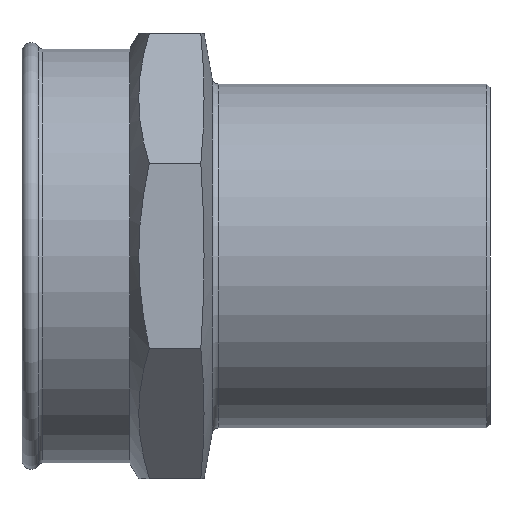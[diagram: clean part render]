
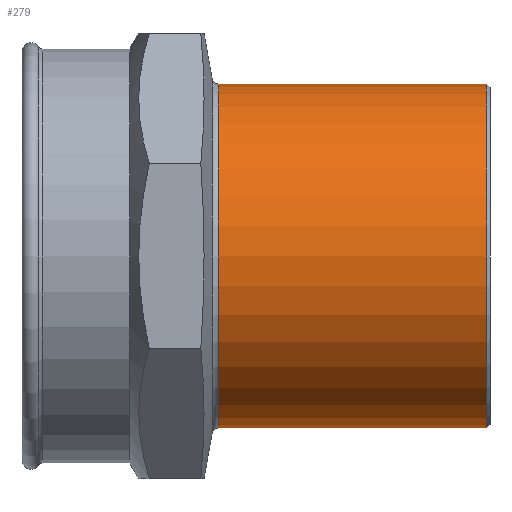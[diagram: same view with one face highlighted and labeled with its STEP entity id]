
A CAD part, left-side view. The second image highlights one B-rep face of the part: STEP entity #279.
In plain terms, the highlighted cylindrical face has radius 27 mm (diameter 54 mm), a partial arc.
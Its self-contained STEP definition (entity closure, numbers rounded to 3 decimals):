
#30 = CIRCLE ( 'NONE', #1045, 27. ) ;
#142 = VERTEX_POINT ( 'NONE', #580 ) ;
#244 = AXIS2_PLACEMENT_3D ( 'NONE', #880, #782, #786 ) ;
#270 = VERTEX_POINT ( 'NONE', #1057 ) ;
#279 = ADVANCED_FACE ( 'NONE', ( #624 ), #1069, .T. ) ;
#280 = EDGE_LOOP ( 'NONE', ( #483, #667, #403, #956 ) ) ;
#403 = ORIENTED_EDGE ( 'NONE', *, *, #968, .T. ) ;
#436 = CARTESIAN_POINT ( 'NONE',  ( 0., -17.811, -27. ) ) ;
#467 = DIRECTION ( 'NONE',  ( 0., -1., 0. ) ) ;
#483 = ORIENTED_EDGE ( 'NONE', *, *, #977, .F. ) ;
#513 = CARTESIAN_POINT ( 'NONE',  ( 0., 42.661, 0. ) ) ;
#524 = DIRECTION ( 'NONE',  ( 0., -1., 0. ) ) ;
#526 = DIRECTION ( 'NONE',  ( 0., -1., 0. ) ) ;
#544 = EDGE_CURVE ( 'NONE', #646, #142, #30, .T. ) ;
#580 = CARTESIAN_POINT ( 'NONE',  ( 0., 0.5, -27. ) ) ;
#593 = AXIS2_PLACEMENT_3D ( 'NONE', #513, #1157, #600 ) ;
#600 = DIRECTION ( 'NONE',  ( 0., 0., -1. ) ) ;
#606 = CARTESIAN_POINT ( 'NONE',  ( 0., -17.811, 27. ) ) ;
#618 = VECTOR ( 'NONE', #524, 1000. ) ;
#624 = FACE_OUTER_BOUND ( 'NONE', #280, .T. ) ;
#646 = VERTEX_POINT ( 'NONE', #837 ) ;
#667 = ORIENTED_EDGE ( 'NONE', *, *, #871, .T. ) ;
#739 = LINE ( 'NONE', #606, #618 ) ;
#782 = DIRECTION ( 'NONE',  ( 0., -1., 0. ) ) ;
#786 = DIRECTION ( 'NONE',  ( 0., 0., -1. ) ) ;
#813 = CARTESIAN_POINT ( 'NONE',  ( 0., 42.661, -27. ) ) ;
#837 = CARTESIAN_POINT ( 'NONE',  ( 0., 0.5, 27. ) ) ;
#842 = CIRCLE ( 'NONE', #593, 27. ) ;
#871 = EDGE_CURVE ( 'NONE', #270, #1052, #842, .T. ) ;
#880 = CARTESIAN_POINT ( 'NONE',  ( 0., -17.811, 0. ) ) ;
#956 = ORIENTED_EDGE ( 'NONE', *, *, #544, .F. ) ;
#968 = EDGE_CURVE ( 'NONE', #1052, #142, #1139, .T. ) ;
#977 = EDGE_CURVE ( 'NONE', #270, #646, #739, .T. ) ;
#1008 = CARTESIAN_POINT ( 'NONE',  ( 0., 0.5, 0. ) ) ;
#1045 = AXIS2_PLACEMENT_3D ( 'NONE', #1008, #467, #1107 ) ;
#1052 = VERTEX_POINT ( 'NONE', #813 ) ;
#1057 = CARTESIAN_POINT ( 'NONE',  ( 0., 42.661, 27. ) ) ;
#1069 = CYLINDRICAL_SURFACE ( 'NONE', #244, 27. ) ;
#1107 = DIRECTION ( 'NONE',  ( 0., 0., -1. ) ) ;
#1139 = LINE ( 'NONE', #436, #1169 ) ;
#1157 = DIRECTION ( 'NONE',  ( 0., -1., 0. ) ) ;
#1169 = VECTOR ( 'NONE', #526, 1000. ) ;
